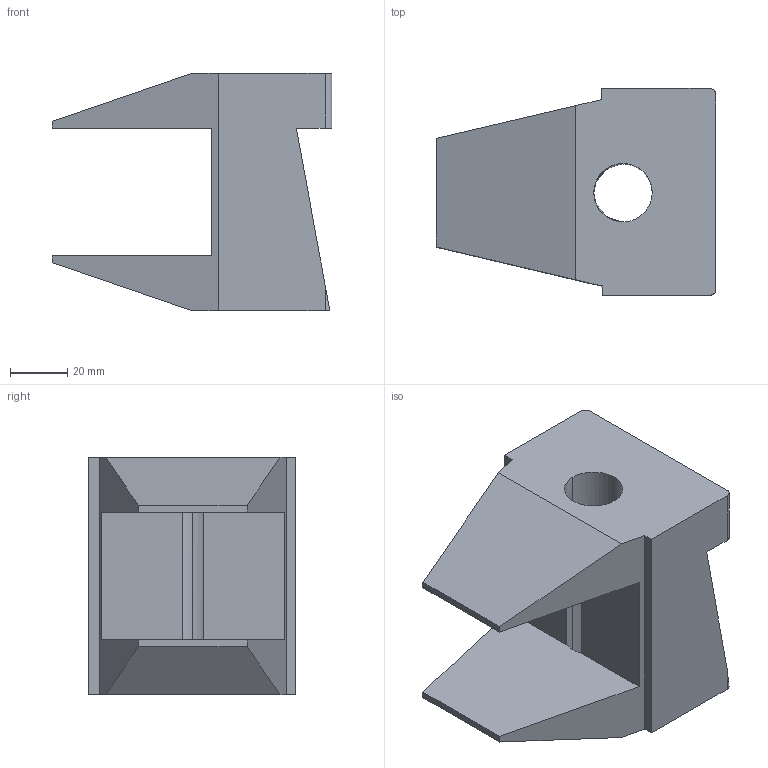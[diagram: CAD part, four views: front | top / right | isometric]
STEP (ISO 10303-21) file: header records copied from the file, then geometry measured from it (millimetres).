
FILE_DESCRIPTION(('TurboCAD Mac Pro'),'Build 980');
FILE_NAME('PLF3075.stp',' ',(''),(''),'ACIS Interop','IMSI','TurboCAD Mac Pro BY IMSI, INCORPORATED');
FILE_SCHEMA(('automotive_design'));
Length unit declared in the file: inch
Products named in the file (1): 1
Bounding box: 97.46 x 72.11 x 82.55 mm (x, y, z)
Volume: 262084 mm3; surface area: 40775.1 mm2
Topology: 1 solids, 1 shells, 27 faces, 81 edges, 54 vertices
Faces by surface type: plane 18, bspline 9
Entity records: 1215 total; most frequent: CARTESIAN_POINT 318, ORIENTED_EDGE 162, DIRECTION 91, EDGE_CURVE 81, VERTEX_POINT 54, LINE 53, VECTOR 53, EDGE_LOOP 29
